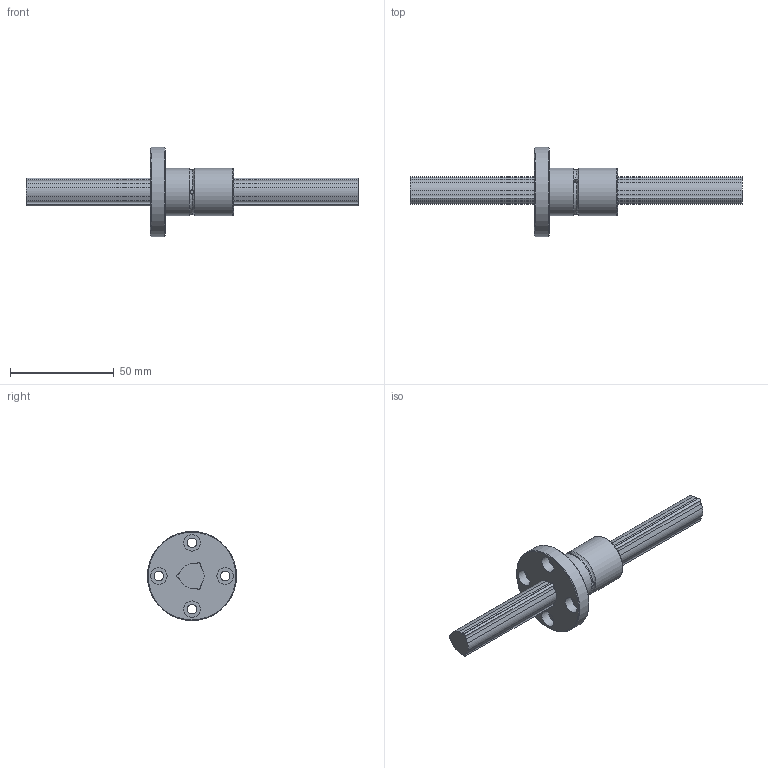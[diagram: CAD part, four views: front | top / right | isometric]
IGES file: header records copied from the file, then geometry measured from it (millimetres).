
Start section: Data from Parasolid IGES Translator 26.0.171, Copyright(c) 2006 Siemens PLM Software. All Rights Reserved.
Global section: file name: LBF15+160L(160600).igs; native system: By Siemens PLM Incorporated; preprocessor: XPlus GENERIC/IGES 26.0.171; author: Noname; organization: Noname; date: 20240523.120443; units: millimetre
Bounding box: 160 x 43 x 43 mm (x, y, z)
Surface area: 15147.2 mm2 (no closed solid volume)
Topology: 0 solids, 0 shells, 66 faces, 344 edges, 321 vertices
Faces by surface type: revolution 45, extrusion 21
